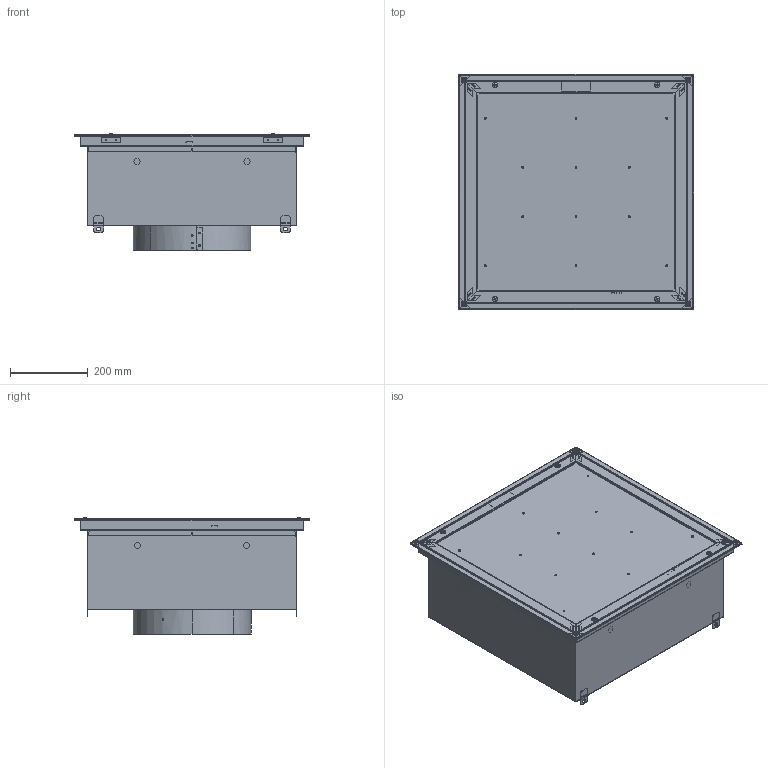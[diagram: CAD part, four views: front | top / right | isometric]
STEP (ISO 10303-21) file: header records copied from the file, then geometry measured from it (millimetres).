
FILE_DESCRIPTION (( 'STEP AP214' ), '1' );
FILE_NAME ('24 X 24_FRD-HEPA_.STEP', '2025-07-25T19:16:51', ( '' ), ( '' ), 'SwSTEP 2.0', 'SolidWorks 2024', '' );
FILE_SCHEMA (( 'AUTOMOTIVE_DESIGN' ));
Length unit declared in the file: inch
Products named in the file (39): 061325-FRDs_H1P11_L06; 061325-FRDs_SAFETYCABLE-ASSY_L06; 061325-FRDs_P1B1B-SUB_L06; 061325-FRDs_H1E1_L06; 061325-FRDs_FP1B20-A1_L06; 061325-FRDs_R2C1-SUB_L06; 061325-FRDs_H1Z25_L06_LABEL; "CHALLENGE."; 061325-FRDs_H1F1_L06_1_4 TURN SPRING; 061325-FRDs_PERF-SUB_L06; 061325-FRDs_H1Z24_L06; 061325-FRDs_P1B1B_L06; 061325-FRDs_H1E3_L06; 061325-FRDs_H2E1_L06_WELD CLIP; 40º BEVEL FRAME; 061325-FRDs_H2E12_L06_CLIP, HEPA FILTER, SWING ARM; 061325-FRDs_FC3E-A4_L06; 061325-FRDs_FP1B20-A4_L06; 061325-FRDs_FACE-SUB_L06; 061325-FRDs_FP1B20-A3_L06; 061325-FRDs_H1V31_L06_WASHER, TEFLON: 0.50"OD x 0.25"ID x 0.025"th; 061325-FRDs_FC3E-A1_L06; 061325-FRDs_H1N2_L06; 061325-FRDs_H2G12_L06; 061325-FRDs_FC3E-A3_L06; 061325-FRDs_FP1B-SUB_L06; 061325-FRDs_H1Z26_L06_LABEL; "CONCENTRATION"; 061325-FRDs_H1E2_L06; 061325-FRDs_H2E5_L06; 061325-FRDs_H1T7_L06_9531K23; 061325-FRDs_C1C1C112_L06; 061325-FRDs_Port-SUB_L06; 24 X 24_FRD-HEPA_; 061325-FRDs_PLENUM MASTER_L06; 061325-FRDs_PLASTER-SUB_L06; 061325-FRDs_FC3E-A2_L06; 061325-FRDs_FC3E-SUB_L06; 061325-FRDs_H2E11_L06_GUIDE, HEPA FILTER, SWING ARM; 061325-FRDs_H2E2_L06_WELD CLIP, BOB FRAME; 061325-FRDs_R2C1_L06; 061325-FRDs_FP1B20-A2_L06
Assembly tree (70 placements, depth 5):
  24 X 24_FRD-HEPA_
    061325-FRDs_PLASTER-SUB_L06
      061325-FRDs_FC3E-SUB_L06
        061325-FRDs_FC3E-A1_L06
        061325-FRDs_FC3E-A2_L06
        061325-FRDs_FC3E-A3_L06
        061325-FRDs_FC3E-A4_L06
        061325-FRDs_H2E2_L06_WELD CLIP, BOB FRAME  x4
        061325-FRDs_H2G12_L06  x4
        061325-FRDs_H1F1_L06_1_4 TURN SPRING  x4
        061325-FRDs_H2E11_L06_GUIDE, HEPA FILTER, SWING ARM  x4
        061325-FRDs_H2E12_L06_CLIP, HEPA FILTER, SWING ARM  x4
        061325-FRDs_H1V31_L06_WASHER, TEFLON: 0.50"OD x 0.25"ID x 0.025"th  x4
        061325-FRDs_H1Z25_L06_LABEL; "CHALLENGE."
        061325-FRDs_H1Z26_L06_LABEL; "CONCENTRATION"
      061325-FRDs_Port-SUB_L06  x2
        061325-FRDs_H1P11_L06
        061325-FRDs_H1T7_L06_9531K23
    061325-FRDs_FACE-SUB_L06
      061325-FRDs_FP1B-SUB_L06
        061325-FRDs_FP1B20-A1_L06
        061325-FRDs_FP1B20-A2_L06
        061325-FRDs_FP1B20-A3_L06
        061325-FRDs_FP1B20-A4_L06
        061325-FRDs_H2E1_L06_WELD CLIP; 40º BEVEL FRAME  x4
        061325-FRDs_H1E1_L06  x4
        061325-FRDs_H1E2_L06  x4
        061325-FRDs_SAFETYCABLE-ASSY_L06  x2
          061325-FRDs_H1N2_L06
          061325-FRDs_H1E3_L06
        061325-FRDs_H1Z24_L06
    061325-FRDs_PERF-SUB_L06
      061325-FRDs_R2C1-SUB_L06
        061325-FRDs_R2C1_L06
    061325-FRDs_PLENUM MASTER_L06
      061325-FRDs_P1B1B-SUB_L06
        061325-FRDs_P1B1B_L06
        061325-FRDs_H2E5_L06  x4
    061325-FRDs_C1C1C112_L06
Bounding box: 603.25 x 603.25 x 299.81 mm (x, y, z)
Volume: 1189542.7 mm3; surface area: 2837654.8 mm2
Topology: 70 solids, 70 shells, 2394 faces, 5784 edges, 3614 vertices
Faces by surface type: plane 1073, cylinder 824, torus 244, bspline 209, cone 24, sphere 20
Entity records: 50549 total; most frequent: CARTESIAN_POINT 17629, ORIENTED_EDGE 6656, DIRECTION 6286, EDGE_CURVE 3328, AXIS2_PLACEMENT_3D 2278, VERTEX_POINT 2070, LINE 1730, VECTOR 1730
